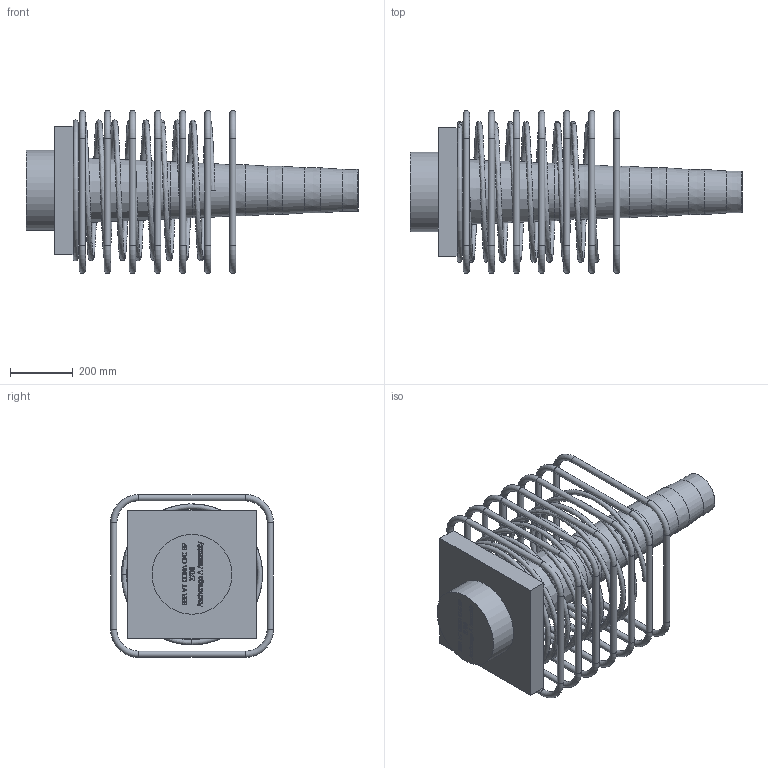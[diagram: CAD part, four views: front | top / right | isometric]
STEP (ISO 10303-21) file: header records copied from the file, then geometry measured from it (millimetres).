
FILE_DESCRIPTION(/* description */ (''),/* implementation_level */ '2;1');
FILE_NAME(/* name */ 'Z:\04 Publications\05 Give-out\BBR\6_3D_Models\BBR VT CONA CMI\BBR VT CONA CMI SP\02706\BBR VT CONA CMI SP 2706_Anchorage A Assembly_CS-34,28.stp',/* time_stamp */ '2017-05-09T10:00:11+02:00',/* author */ ('IP'),/* organization */ (''),/* preprocessor_version */ 'ST-DEVELOPER v16.1',/* originating_system */ 'Autodesk Inventor 2016',/* authorisation */ '');
FILE_SCHEMA (('AUTOMOTIVE_DESIGN { 1 0 10303 214 3 1 1 }'));
Length unit declared in the file: millimetre
Products named in the file (1): BBR VT CONA CMI SP 2706_Anchorage A Assembly_CS-34,28
Bounding box: 1060.1 x 520 x 520 mm (x, y, z)
Volume: 42408403.7 mm3; surface area: 2442638.6 mm2
Topology: 9 solids, 9 shells, 677 faces, 1789 edges, 1171 vertices
Faces by surface type: plane 314, bspline 293, torus 35, cylinder 29, cone 6
Full cylindrical faces by diameter (mm): 20 x28, 255 x1
Entity records: 26997 total; most frequent: CARTESIAN_POINT 12299, ORIENTED_EDGE 3438, DIRECTION 1977, EDGE_CURVE 1716, VERTEX_POINT 1168, LINE 1051, VECTOR 1051, EDGE_LOOP 807
